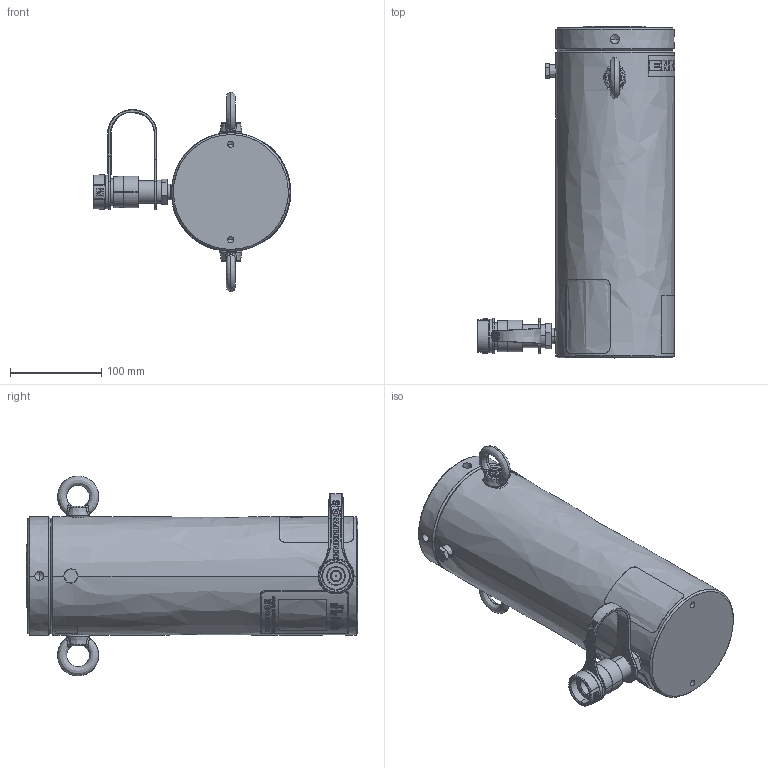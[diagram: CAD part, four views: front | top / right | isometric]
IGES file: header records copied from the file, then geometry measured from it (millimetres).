
Start section:  PTC IGES file: hcl5010.igs
Global section: file name: hcl5010.igs; native system: Creo Parametric by PTC Inc.; preprocessor: 2015290; author: Akhilesh.Subrahmanya; organization: Unknown; date: 20170621.152915; units: millimetre
Bounding box: 216.62 x 364 x 218.98 mm (x, y, z)
Surface area: 327305 mm2 (no closed solid volume)
Topology: 0 solids, 0 shells, 729 faces, 6440 edges, 6421 vertices
Faces by surface type: revolution 406, bspline 303, extrusion 20
